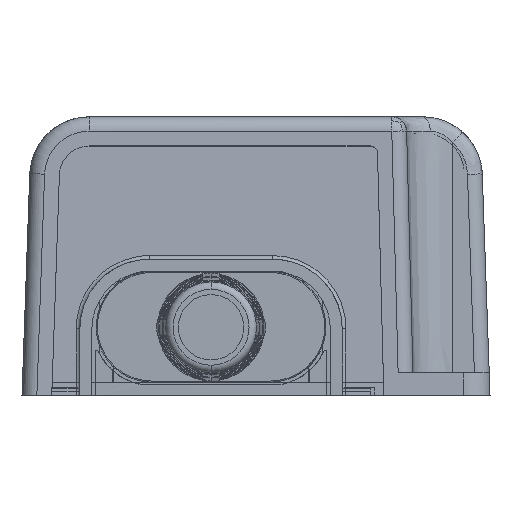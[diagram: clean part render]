
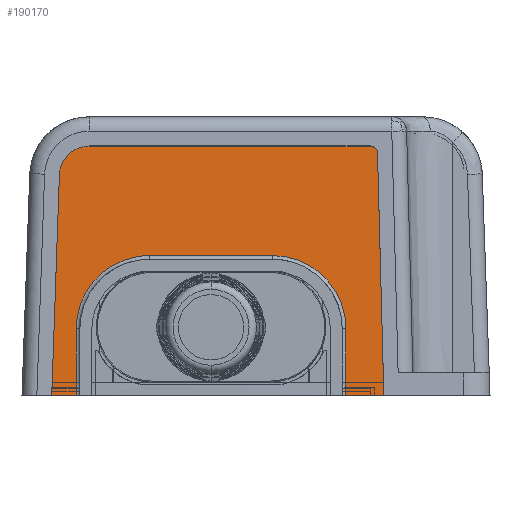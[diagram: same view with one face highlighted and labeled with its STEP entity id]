
A CAD part, left-side view. The second image highlights one B-rep face of the part: STEP entity #190170.
In plain terms, the highlighted planar face has unit normal (-0.999, 0, 0.035).
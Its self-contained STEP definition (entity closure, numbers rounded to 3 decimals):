
#122550=CARTESIAN_POINT('',(-85.117,28.017,
-0.5));
#122560=VERTEX_POINT('',#122550);
#122590=CARTESIAN_POINT('',(-85.117,0.5,
-0.5));
#122600=DIRECTION('',(0.,1.,0.));
#122610=VECTOR('',#122600,1.);
#122620=LINE('',#122590,#122610);
#122630=CARTESIAN_POINT('',(-85.117,24.722,
-0.5));
#122640=VERTEX_POINT('',#122630);
#122650=EDGE_CURVE('',#122640,#122560,#122620,.T.);
#128010=CARTESIAN_POINT('',(-85.117,-11.616,
-0.5));
#128020=VERTEX_POINT('',#128010);
#128050=CARTESIAN_POINT('',(-85.117,0.5,
-0.5));
#128060=DIRECTION('',(0.,1.,0.));
#128070=VECTOR('',#128060,1.);
#128080=LINE('',#128050,#128070);
#128090=CARTESIAN_POINT('',(-85.117,-16.718,
-0.5));
#128100=VERTEX_POINT('',#128090);
#128110=EDGE_CURVE('',#128100,#128020,#128080,.T.);
#159050=CARTESIAN_POINT('',(-84.805,-11.616,
8.433));
#159060=VERTEX_POINT('',#159050);
#159090=CARTESIAN_POINT('',(-85.117,-11.616,
-0.5));
#159100=DIRECTION('',(-0.035,0.,
-0.999));
#159110=VECTOR('',#159100,1.);
#159120=LINE('',#159090,#159110);
#159130=EDGE_CURVE('',#159060,#128020,#159120,.T.);
#188660=CARTESIAN_POINT('',(-83.945,-17.632,
33.057));
#188670=DIRECTION('',(0.,1.,0.));
#188680=VECTOR('',#188670,1.);
#188690=LINE('',#188660,#188680);
#188700=CARTESIAN_POINT('',(-83.945,-14.865,
33.057));
#188710=VERTEX_POINT('',#188700);
#188720=CARTESIAN_POINT('',(-83.945,22.982,
33.055));
#188730=VERTEX_POINT('',#188720);
#188740=EDGE_CURVE('',#188710,#188730,#188690,.T.);
#189190=CARTESIAN_POINT('',(-84.076,26.976,
29.312));
#189200=VERTEX_POINT('',#189190);
#189230=CARTESIAN_POINT('',(-85.1,28.,
0.));
#189240=DIRECTION('',(0.035,-0.035,
0.999));
#189250=VECTOR('',#189240,1.);
#189260=LINE('',#189230,#189250);
#189270=EDGE_CURVE('',#122560,#189200,#189260,.T.);
#189460=CARTESIAN_POINT('',(-84.085,22.982,
29.056));
#189470=DIRECTION('',(-0.999,0.,0.035));
#189480=DIRECTION('',(0.035,0.,
0.999));
#189490=AXIS2_PLACEMENT_3D('',#189460,#189470,#189480);
#189500=CIRCLE('',#189490,4.002);
#189510=EDGE_CURVE('',#188730,#189200,#189500,.T.);
#189570=CARTESIAN_POINT('',(-84.29,0.35,
23.181));
#189580=DIRECTION('',(-0.999,0.,0.035));
#189590=DIRECTION('',(0.035,0.,0.999));
#189600=AXIS2_PLACEMENT_3D('',#189570,#189580,#189590);
#189610=PLANE('',#189600);
#189620=CARTESIAN_POINT('',(-84.461,-1.747,
18.302));
#189630=DIRECTION('',(0.,-1.,0.));
#189640=VECTOR('',#189630,1.);
#189650=LINE('',#189620,#189640);
#189660=CARTESIAN_POINT('',(-84.461,14.853,
18.302));
#189670=VERTEX_POINT('',#189660);
#189680=CARTESIAN_POINT('',(-84.461,-1.747,
18.302));
#189690=VERTEX_POINT('',#189680);
#189700=EDGE_CURVE('',#189670,#189690,#189650,.T.);
#189710=ORIENTED_EDGE('',*,*,#189700,.T.);
#189720=CARTESIAN_POINT('',(-84.805,14.853,
8.433));
#189730=DIRECTION('',(0.999,0.,-0.035));
#189740=DIRECTION('',(-0.035,0.,
-0.999));
#189750=AXIS2_PLACEMENT_3D('',#189720,#189730,#189740);
#189760=ELLIPSE('',#189750,9.875,9.869);
#189770=CARTESIAN_POINT('',(-84.805,24.722,
8.433));
#189780=VERTEX_POINT('',#189770);
#189790=EDGE_CURVE('',#189780,#189670,#189760,.T.);
#189800=ORIENTED_EDGE('',*,*,#189790,.T.);
#189810=CARTESIAN_POINT('',(-84.805,24.722,
8.45));
#189820=DIRECTION('',(0.035,0.,
0.999));
#189830=VECTOR('',#189820,1.);
#189840=LINE('',#189810,#189830);
#189850=EDGE_CURVE('',#122640,#189780,#189840,.T.);
#189860=ORIENTED_EDGE('',*,*,#189850,.T.);
#189870=ORIENTED_EDGE('',*,*,#122650,.F.);
#189880=ORIENTED_EDGE('',*,*,#189270,.F.);
#189890=ORIENTED_EDGE('',*,*,#189510,.T.);
#189900=ORIENTED_EDGE('',*,*,#188740,.T.);
#189910=CARTESIAN_POINT('',(-83.98,-14.865,
32.058));
#189920=DIRECTION('',(-0.999,0.,0.035));
#189930=DIRECTION('',(0.035,0.,0.999));
#189940=AXIS2_PLACEMENT_3D('',#189910,#189920,#189930);
#189950=CIRCLE('',#189940,1.);
#189960=CARTESIAN_POINT('',(-83.979,-15.865,
32.084));
#189970=VERTEX_POINT('',#189960);
#189980=EDGE_CURVE('',#189970,#188710,#189950,.T.);
#189990=ORIENTED_EDGE('',*,*,#189980,.T.);
#190000=CARTESIAN_POINT('',(-85.1,-16.705,
0.));
#190010=DIRECTION('',(0.035,0.026,
0.999));
#190020=VECTOR('',#190010,1.);
#190030=LINE('',#190000,#190020);
#190040=EDGE_CURVE('',#128100,#189970,#190030,.T.);
#190050=ORIENTED_EDGE('',*,*,#190040,.T.);
#190060=ORIENTED_EDGE('',*,*,#128110,.F.);
#190070=ORIENTED_EDGE('',*,*,#159130,.T.);
#190080=CARTESIAN_POINT('',(-84.805,-1.747,
8.433));
#190090=DIRECTION('',(0.999,0.,-0.035));
#190100=DIRECTION('',(-0.035,0.,
-0.999));
#190110=AXIS2_PLACEMENT_3D('',#190080,#190090,#190100);
#190120=ELLIPSE('',#190110,9.875,9.869);
#190130=EDGE_CURVE('',#189690,#159060,#190120,.T.);
#190140=ORIENTED_EDGE('',*,*,#190130,.T.);
#190150=EDGE_LOOP('',(#190140,#190070,#190060,#190050,#189990,#189900,
#189890,#189880,#189870,#189860,#189800,#189710));
#190160=FACE_OUTER_BOUND('',#190150,.T.);
#190170=ADVANCED_FACE('',(#190160),#189610,.T.);
